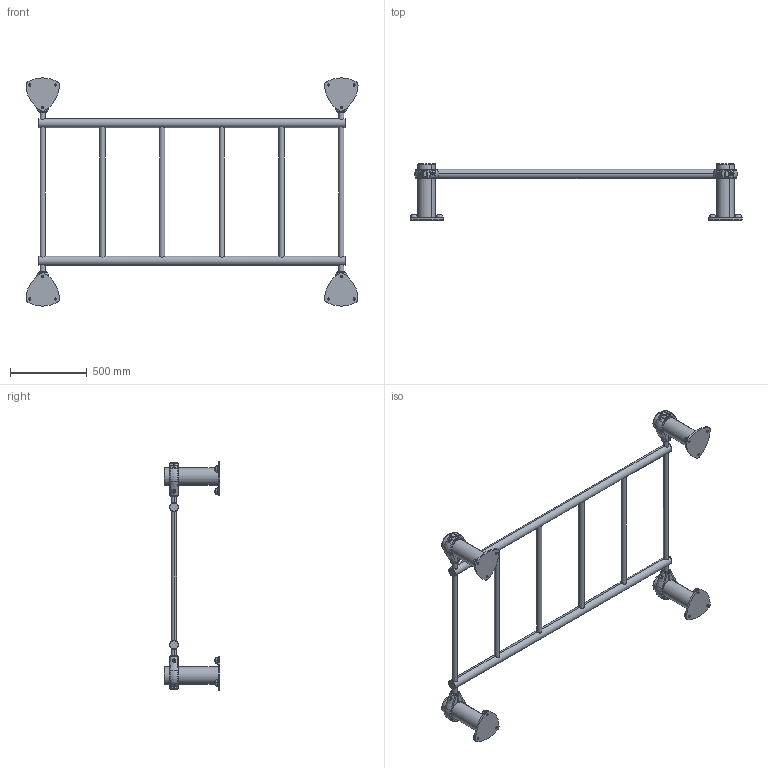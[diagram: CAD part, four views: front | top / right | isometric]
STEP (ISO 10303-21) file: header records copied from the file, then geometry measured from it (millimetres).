
FILE_DESCRIPTION (( 'STEP AP203' ), '1' );
FILE_NAME ('PMS0802 - ECHELLE DE COORDINATION (sans barre d''appuie) V1.0.STEP', '2024-07-18T13:42:01', ( '' ), ( '' ), 'SwSTEP 2.0', 'SolidWorks 2024', '' );
FILE_SCHEMA (( 'CONFIG_CONTROL_DESIGN' ));
Length unit declared in the file: millimetre
Products named in the file (1): PMS0802 - ECHELLE DE COORDINATION (sans barre d''appuie) V1.0
Bounding box: 2168.26 x 365 x 1490.25 mm (x, y, z)
Surface area: 2525952.3 mm2 (no closed solid volume)
Topology: 0 solids, 94 shells, 848 faces, 2946 edges, 2072 vertices
Faces by surface type: bspline 284, cylinder 252, plane 198, torus 64, sphere 32, cone 18
Entity records: 70522 total; most frequent: CARTESIAN_POINT 49013, ORIENTED_EDGE 4400, DIRECTION 3702, EDGE_CURVE 2938, VERTEX_POINT 2072, AXIS2_PLACEMENT_3D 1465, B_SPLINE_CURVE_WITH_KNOTS 1026, EDGE_LOOP 910
